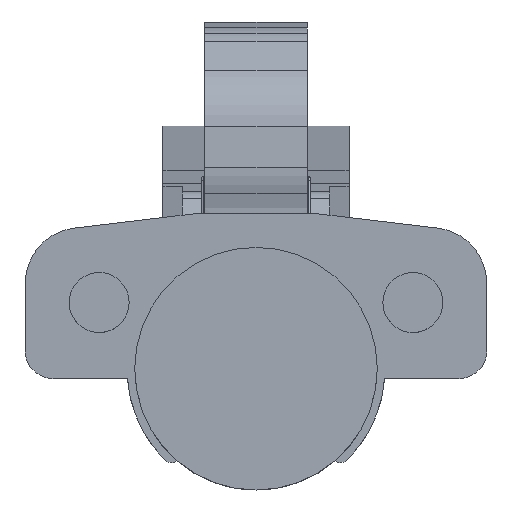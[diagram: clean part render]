
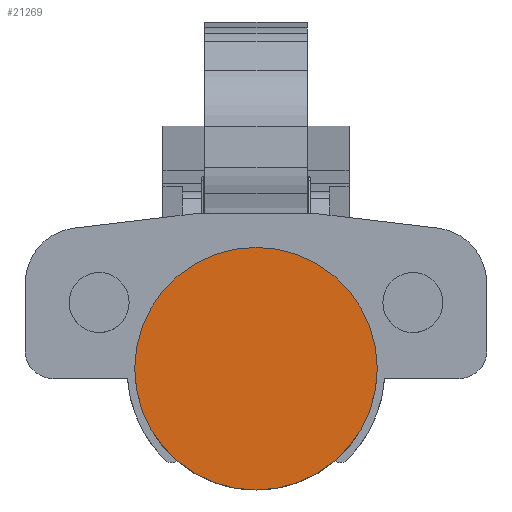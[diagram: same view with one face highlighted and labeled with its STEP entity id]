
A CAD part, top view. The second image highlights one B-rep face of the part: STEP entity #21269.
In plain terms, the highlighted planar face has unit normal (0, 0, 1).
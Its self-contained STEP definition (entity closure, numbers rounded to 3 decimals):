
#177 = DIRECTION ( 'NONE',  ( 0., 0., 1. ) ) ;
#298 = VERTEX_POINT ( 'NONE', #9585 ) ;
#1070 = CIRCLE ( 'NONE', #14398, 17.4 ) ;
#3560 = ORIENTED_EDGE ( 'NONE', *, *, #10566, .T. ) ;
#4220 = FACE_OUTER_BOUND ( 'NONE', #19609, .T. ) ;
#5571 = CARTESIAN_POINT ( 'NONE',  ( 0., 5.722, 14.008 ) ) ;
#6403 = EDGE_CURVE ( 'NONE', #10883, #298, #1070, .T. ) ;
#6677 = CIRCLE ( 'NONE', #8955, 17.4 ) ;
#7693 = CARTESIAN_POINT ( 'NONE',  ( 0., 5.722, 14.008 ) ) ;
#8823 = DIRECTION ( 'NONE',  ( 0., 0., 1. ) ) ;
#8955 = AXIS2_PLACEMENT_3D ( 'NONE', #17909, #16123, #23383 ) ;
#9019 = CARTESIAN_POINT ( 'NONE',  ( 17.4, 5.722, 14.008 ) ) ;
#9585 = CARTESIAN_POINT ( 'NONE',  ( -17.4, 5.722, 14.008 ) ) ;
#9833 = ORIENTED_EDGE ( 'NONE', *, *, #6403, .T. ) ;
#10566 = EDGE_CURVE ( 'NONE', #298, #10883, #6677, .T. ) ;
#10883 = VERTEX_POINT ( 'NONE', #9019 ) ;
#14398 = AXIS2_PLACEMENT_3D ( 'NONE', #5571, #8823, #20154 ) ;
#14446 = AXIS2_PLACEMENT_3D ( 'NONE', #7693, #177, #18330 ) ;
#15086 = PLANE ( 'NONE',  #14446 ) ;
#16123 = DIRECTION ( 'NONE',  ( 0., 0., 1. ) ) ;
#17909 = CARTESIAN_POINT ( 'NONE',  ( 0., 5.722, 14.008 ) ) ;
#18330 = DIRECTION ( 'NONE',  ( 1., 0., 0. ) ) ;
#19609 = EDGE_LOOP ( 'NONE', ( #9833, #3560 ) ) ;
#20154 = DIRECTION ( 'NONE',  ( 1., 0., 0. ) ) ;
#21269 = ADVANCED_FACE ( 'NONE', ( #4220 ), #15086, .T. ) ;
#23383 = DIRECTION ( 'NONE',  ( 1., 0., 0. ) ) ;
